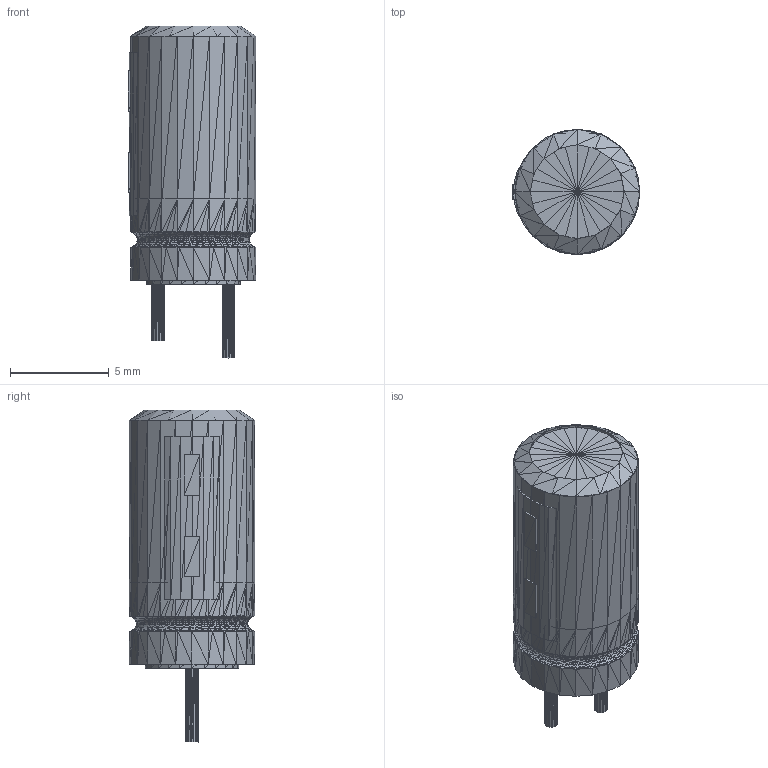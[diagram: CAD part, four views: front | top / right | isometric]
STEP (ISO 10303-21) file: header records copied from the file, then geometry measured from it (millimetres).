
FILE_DESCRIPTION(('HOOPS Exchange Step'),'2;1');
FILE_NAME('***.stp');
FILE_SCHEMA( ('AP242_MANAGED_MODEL_BASED_3D_ENGINEERING_MIM_LF {1 0 10303 442 1 1 4 }') );
Length unit declared in the file: inch
Products named in the file (11): CAPOLV250X500MIL_2; CAPOLV250X500MIL_3; CAPOLV250X500MIL_4; CAPOLV250X500MIL_5; CAPOLV250X500MIL_6; CAPOLV250X500MIL_7; CAPOLV250X500MIL_8; CAPOLV250X500MIL_9; CAPOLV250X500MIL_10; CAPOLV250X500MIL_11; CAPOLV250X500MIL
Assembly tree (10 placements, depth 2):
  CAPOLV250X500MIL
    CAPOLV250X500MIL_2
    CAPOLV250X500MIL_3
    CAPOLV250X500MIL_4
    CAPOLV250X500MIL_5
    CAPOLV250X500MIL_6
    CAPOLV250X500MIL_7
    CAPOLV250X500MIL_8
    CAPOLV250X500MIL_9
    CAPOLV250X500MIL_10
    CAPOLV250X500MIL_11
Bounding box: 6.48 x 6.35 x 16.84 mm (x, y, z)
Volume: 438.2 mm3; surface area: 600.7 mm2
Topology: 10 solids, 10 shells, 2004 faces, 3006 edges, 1020 vertices
Faces by surface type: plane 2004
Entity records: 39590 total; most frequent: DIRECTION 7058, CARTESIAN_POINT 6052, ORIENTED_EDGE 6012, VECTOR 3006, LINE 3006, EDGE_CURVE 3006, AXIS2_PLACEMENT_3D 2026, PLANE 2004
